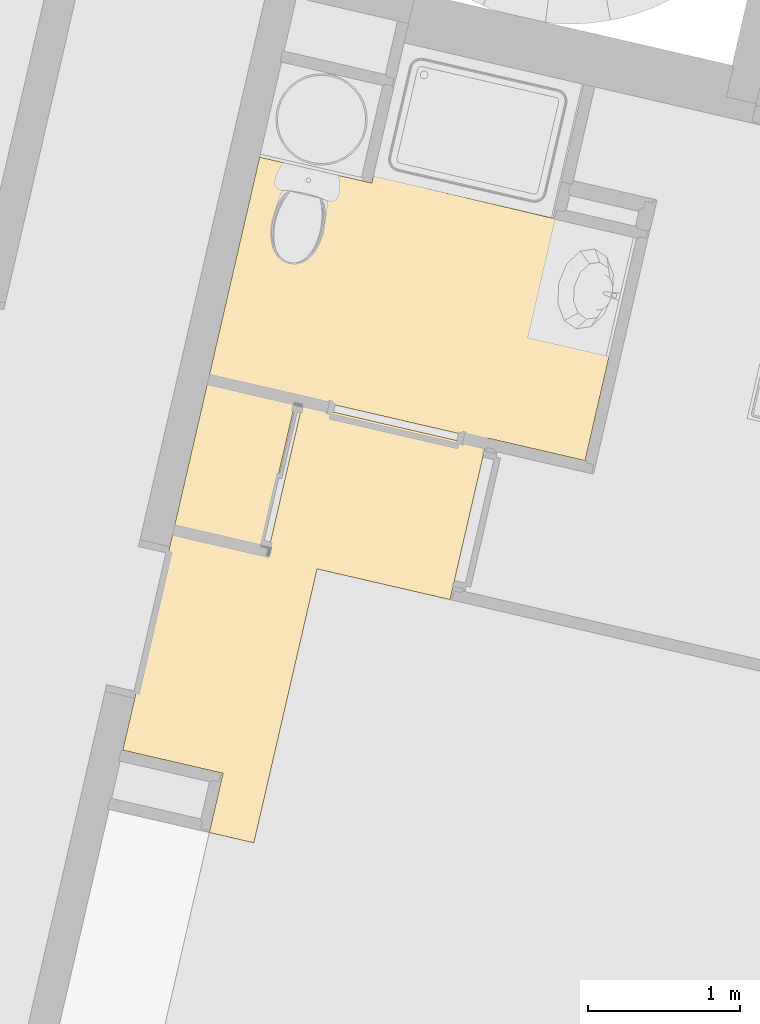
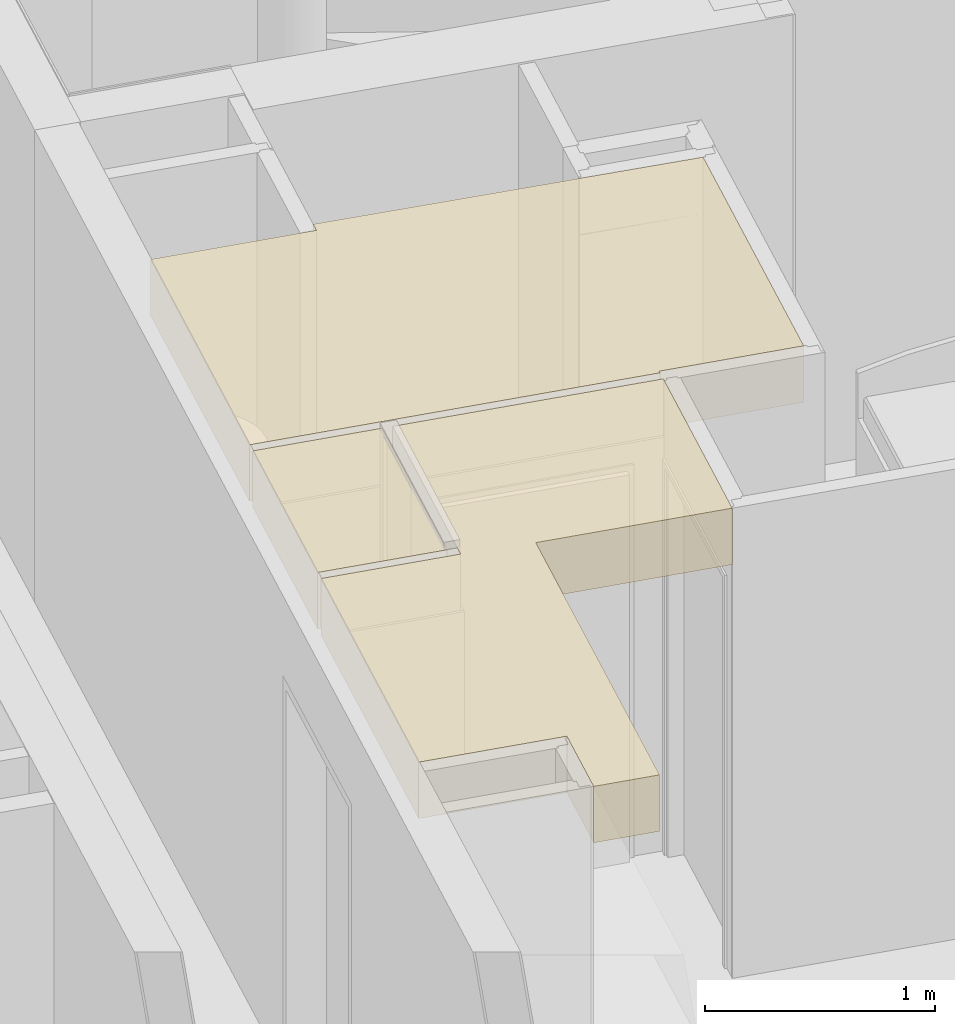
# One storey, part 62 of 90: 1 covering.
"""IFC2X3 building model written with IfcOpenShell, lengths in metres."""

from ifc_helpers import new_model, entity, si_unit, converted_unit, derived_unit, money_unit, direction, frame, origin_with_axes, place, context, subcontext, project, spatial, faceted_brep, material, type_object, element, save


model = new_model("IFC2X3")

# Units and contexts
model_context = context("Model", 3, precision=1e-05, world=origin_with_axes(), true_north=direction((0.0, 1.0)))
body_context = subcontext(model_context, "Body", "Model", "MODEL_VIEW")
ifc_project = project(units=[si_unit("LENGTHUNIT", "METRE"), si_unit("AREAUNIT", "SQUARE_METRE"), si_unit("VOLUMEUNIT", "CUBIC_METRE"), converted_unit("PLANEANGLEUNIT", "DEGREE", entity("IfcPlaneAngleMeasure", 0.0174532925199), si_unit("PLANEANGLEUNIT", "RADIAN"), dimensions=[0, 0, 0, 0, 0, 0, 0]), si_unit("SOLIDANGLEUNIT", "STERADIAN"), money_unit("EUR"), converted_unit("TIMEUNIT", "Year", entity("IfcTimeMeasure", 31556926.0), si_unit("TIMEUNIT", "SECOND"), dimensions=[0, 0, 1, 0, 0, 0, 0]), si_unit("MASSUNIT", "GRAM", prefix="KILO"), si_unit("THERMODYNAMICTEMPERATUREUNIT", "DEGREE_CELSIUS"), si_unit("LUMINOUSINTENSITYUNIT", "LUMEN"), si_unit("ENERGYUNIT", "JOULE", prefix="MEGA"), derived_unit("THERMALCONDUCTANCEUNIT", [(si_unit("POWERUNIT", "WATT"), 1), (si_unit("LENGTHUNIT", "METRE"), -1), (si_unit("THERMODYNAMICTEMPERATUREUNIT", "KELVIN"), -1)]), derived_unit("SPECIFICHEATCAPACITYUNIT", [(si_unit("ENERGYUNIT", "JOULE"), 1), (si_unit("MASSUNIT", "GRAM", prefix="KILO"), -1), (si_unit("THERMODYNAMICTEMPERATUREUNIT", "KELVIN"), -1)]), derived_unit("MASSDENSITYUNIT", [(si_unit("MASSUNIT", "GRAM", prefix="KILO"), 1), (si_unit("VOLUMEUNIT", "CUBIC_METRE"), -1)])], contexts=[model_context])

# Site, building, storey
site_placement = place(None, origin_with_axes())
site = spatial("IfcSite", under=ifc_project, at=site_placement, Name="Site", CompositionType="ELEMENT")
building_placement = place(site_placement, origin_with_axes())
building = spatial("IfcBuilding", under=site, at=building_placement, Name="Bâtiment", CompositionType="ELEMENT")
storey_placement = place(building_placement, frame((0.0, 0.0, 2.72), z_axis=(0.0, 0.0, 1.0), x_axis=(1.0, 0.0, 0.0)))
storey = spatial("IfcBuildingStorey", under=building, at=storey_placement, Name="R+1", CompositionType="ELEMENT", Elevation=2.72)

# Covering
ifc_material = material(Name="Finition int - Plaque de plâtre")
covering_type = type_object("IfcCoveringType", Name="Finition int - Plaque de plâtre 300", PredefinedType="CEILING")
covering_placement = place(storey_placement, frame((-10.833336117, -10.1552773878, 2.5), z_axis=(0.0, 0.0, 1.0), x_axis=(1.0, 0.0, 0.0)))
element("IfcCovering", 1, at=covering_placement, inside=storey, type_object=covering_type, material=ifc_material, Name="Dalle_004", PredefinedType="CEILING", context=body_context, shape_type="Brep", body=[
    faceted_brep([(-1.29479713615, -2.25294603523, 0.0), (-0.720882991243, -2.38539811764, 0.0), (-0.50368993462, -1.44430179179, 0.0), (-1.07760408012, -1.31184971, 0.0), (-1.29479713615, -2.25294603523, -0.3), (-0.720882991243, -2.38539811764, -0.3), (-0.50368993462, -1.44430179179, -0.3), (-1.07760408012, -1.31184971, -0.3)], [[[0, 1, 2, 3]], [[4, 5, 1, 0]], [[5, 6, 2, 1]], [[3, 2, 6, 7]], [[7, 4, 0, 3]], [[7, 6, 5, 4]]]),
    faceted_brep([(-0.735662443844, 0.16978153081, 0.0), (-1.06681002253, -1.26507911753, 0.0), (0.755294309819, -1.68559761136, 0.0), (0.758217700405, -1.67293057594, 0.0), (1.39936456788, -1.82089911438, 0.0), (1.73626646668, -0.361105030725, 0.0), (0.0109264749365, 0.0473443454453, 0.0), (0.0, 0.0, 0.0), (-0.735662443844, 0.16978153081, -0.3), (-1.06681002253, -1.26507911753, -0.3), (0.755294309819, -1.68559761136, -0.3), (0.758217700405, -1.67293057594, -0.3), (1.39936456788, -1.82089911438, -0.3), (1.73626646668, -0.361105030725, -0.3), (0.0109264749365, 0.0473443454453, -0.3), (0.0, 0.0, -0.3)], [[[0, 1, 2, 3, 4, 5, 6, 7]], [[8, 9, 1, 0]], [[9, 10, 2, 1]], [[3, 2, 10, 11]], [[4, 3, 11, 12]], [[5, 4, 12, 13]], [[6, 5, 13, 14]], [[7, 6, 14, 15]], [[0, 7, 15, 8]], [[11, 10, 9, 8, 15, 14, 13, 12]]]),
    faceted_brep([(0.74450025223, -1.73236820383, -0.3), (-0.456919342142, -1.45509584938, -0.3), (-0.456919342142, -1.45509584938, 0.0), (0.74450025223, -1.73236820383, 0.0), (-0.68490645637, -2.44296276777, -0.3), (-0.674112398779, -2.39619217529, -0.3), (0.513589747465, -2.73290215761, -0.3), (-0.358486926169, -2.53163795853, -0.3), (-0.773160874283, -4.32841790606, -0.3), (-1.06547707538, -4.26095504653, -0.3), (-0.975749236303, -3.87216481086, -0.3), (-1.63346069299, -3.72037337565, -0.3), (-1.3055911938, -2.2997166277, -0.3), (-0.674112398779, -2.39619217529, 0.0), (-0.68490645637, -2.44296276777, 0.0), (-1.3055911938, -2.2997166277, 0.0), (-1.63346069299, -3.72037337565, 0.0), (-0.975749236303, -3.87216481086, 0.0), (-1.06547707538, -4.26095504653, 0.0), (-0.773160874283, -4.32841790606, 0.0), (-0.358486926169, -2.53163795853, 0.0), (0.513589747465, -2.73290215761, 0.0)], [[[0, 1, 2, 3]], [[4, 5, 1, 0, 6, 7, 8, 9, 10, 11, 12]], [[5, 13, 2, 1]], [[3, 2, 13, 14, 15, 16, 17, 18, 19, 20, 21]], [[6, 0, 3, 21]], [[14, 13, 5, 4]], [[21, 20, 7, 6]], [[20, 19, 8, 7]], [[19, 18, 9, 8]], [[18, 17, 10, 9]], [[17, 16, 11, 10]], [[16, 15, 12, 11]], [[12, 15, 14, 4]]]),
])

save(model, "model.ifc")
